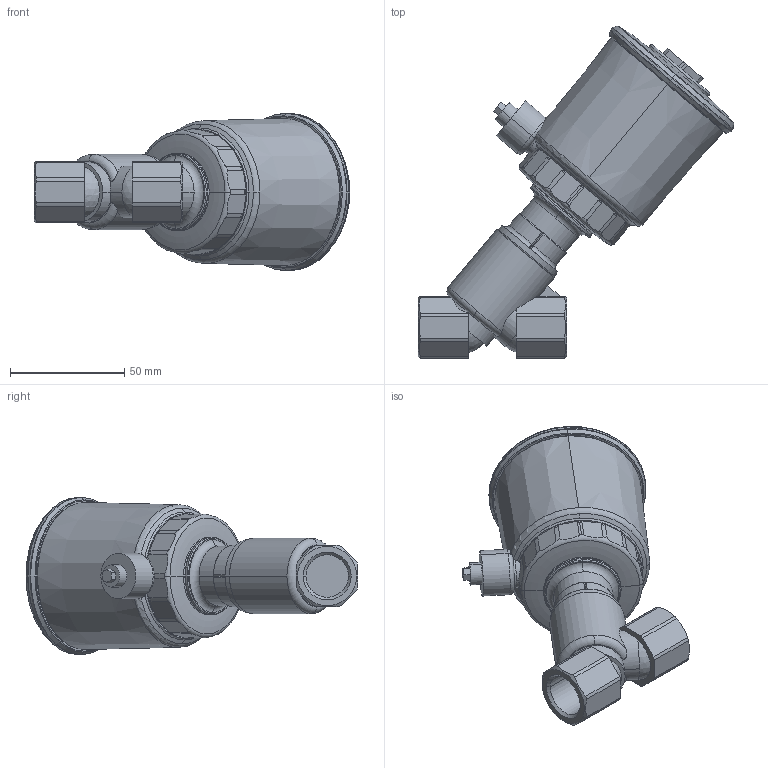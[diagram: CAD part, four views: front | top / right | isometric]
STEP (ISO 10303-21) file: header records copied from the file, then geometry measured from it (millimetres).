
FILE_DESCRIPTION(('STEP AP203'),'1');
FILE_NAME('C:\Documents and Settings\Operator\Ìîè äîêóìåíòû\238 series\Solenoid valve SC E238A001.stp',' ',(' '),(' '),'XStep 1.0',' ',' ');
FILE_SCHEMA(('CONFIG_CONTROL_DESIGN'));
Length unit declared in the file: millimetre
Products named in the file (1): 1
Bounding box: 138.27 x 145.5 x 69 mm (x, y, z)
Volume: 304409.5 mm3; surface area: 36705.9 mm2
Topology: 1 solids, 1 shells, 243 faces, 675 edges, 444 vertices
Faces by surface type: plane 87, cylinder 74, torus 59, cone 21, sphere 2
Entity records: 9159 total; most frequent: CARTESIAN_POINT 2857, ORIENTED_EDGE 1350, DIRECTION 1339, EDGE_CURVE 675, AXIS2_PLACEMENT_3D 540, VERTEX_POINT 444, CIRCLE 282, LINE 259
